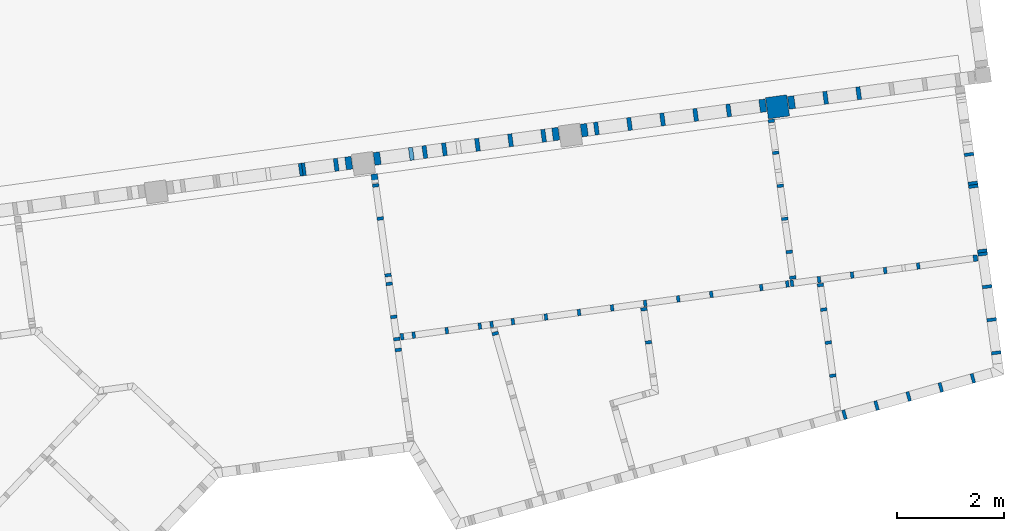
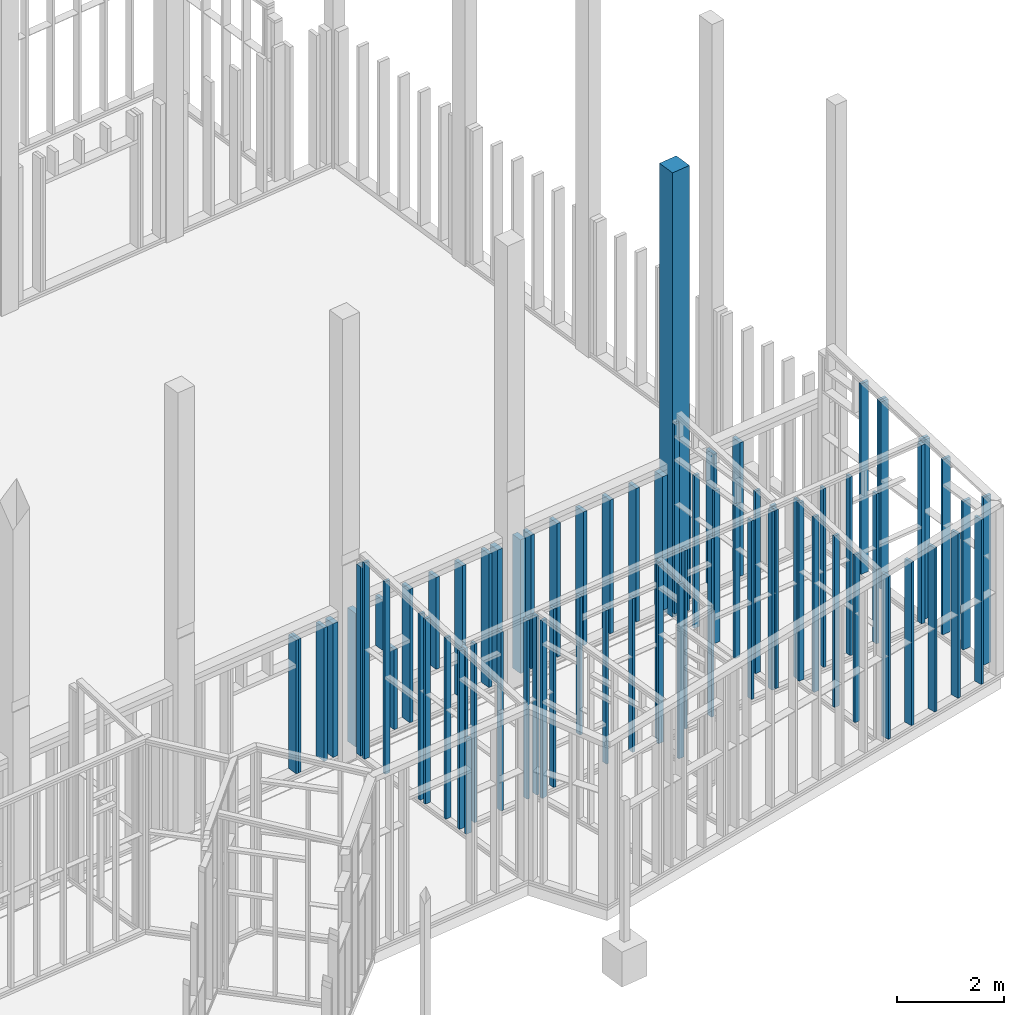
# One storey, part 4 of 24: 77 columns.
"""IFC2X3 building model written with IfcOpenShell, lengths in metres."""

import ifcopenshell
import ifcopenshell.guid

model = None  # the IFC model being written
_history = None  # IfcOwnerHistory: only IFC2X3 demands one
_inside = {}  # id of a spatial element -> (the spatial element, [elements in it])
_under = {}  # id of a project, library or spatial element -> (it, [spatial elements below it])
_declared = {}  # id of a project -> (the project, [libraries it declares])
_typed = {}  # id of a type object -> (the type object, [elements of that type])
_made_of = {}  # id of a material, layer set ... -> (it, [elements and type objects made of it])


def new_model(schema):
    """Start an empty IFC model of exactly this schema.

    Asked for "IFC4X3", IfcOpenShell would pick the latest addendum, in which some entities
    have other attributes; the version numbers below select the first issue.
    IFC2X3 requires an IfcOwnerHistory on every rooted entity: one is made here for all.
    """
    global model, _history
    if schema == "IFC4X3":
        model = ifcopenshell.file(schema_version=(4, 3, 0, 0))
    else:
        model = ifcopenshell.file(schema=schema)
    _inside.clear()
    _under.clear()
    _declared.clear()
    _typed.clear()
    _made_of.clear()
    _history = None
    if model.schema == "IFC2X3":
        org = make("IfcOrganization", Name="unknown")
        user = make(
            "IfcPersonAndOrganization",
            ThePerson=make("IfcPerson", FamilyName="unknown"),
            TheOrganization=org,
        )
        app = make(
            "IfcApplication",
            ApplicationDeveloper=org,
            Version="unknown",
            ApplicationFullName="unknown",
            ApplicationIdentifier="unknown",
        )
        _history = make(
            "IfcOwnerHistory",
            OwningUser=user,
            OwningApplication=app,
            ChangeAction="ADDED",
            CreationDate=0,
        )
    return model


def make(cls, **values):
    """One entity of the class cls with the attributes given. An attribute that is None is left unset."""
    return model.create_entity(
        cls, **{name: value for name, value in values.items() if value is not None}
    )


def entity(cls, *values):
    """Any entity or typed value of the class cls, its attributes in the order of the schema. None: left unset."""
    e = model.create_entity(cls)
    for i, value in enumerate(values):
        if value is not None:
            e[i] = value
    return e


def rooted(cls, **values):
    """An entity with a GlobalId (a new one), such as an element, a storey or a relation."""
    return make(cls, GlobalId=ifcopenshell.guid.new(), OwnerHistory=_history, **values)


def si_unit(unit_type, name, prefix=None):
    """IfcSIUnit, for example si_unit("LENGTHUNIT", "METRE", prefix="MILLI")."""
    return make("IfcSIUnit", UnitType=unit_type, Prefix=prefix, Name=name)


def converted_unit(unit_type, name, factor, base, dimensions=None, offset=None):
    """IfcConversionBasedUnit, such as the inch: factor (a typed value) times the base unit."""
    return make(
        "IfcConversionBasedUnit"
        if offset is None
        else "IfcConversionBasedUnitWithOffset",
        ConversionOffset=offset,
        Dimensions=None
        if dimensions is None
        else entity("IfcDimensionalExponents", *dimensions),
        UnitType=unit_type,
        Name=name,
        ConversionFactor=make(
            "IfcMeasureWithUnit", ValueComponent=factor, UnitComponent=base
        ),
    )


def derived_unit(unit_type, elements):
    """IfcDerivedUnit: a product of units, each with its exponent."""
    return make(
        "IfcDerivedUnit",
        Elements=[
            make("IfcDerivedUnitElement", Unit=unit, Exponent=power)
            for unit, power in elements
        ],
        UnitType=unit_type,
    )


def money_unit(currency):
    """IfcMonetaryUnit."""
    return make("IfcMonetaryUnit", Currency=currency)


def assignment(units):
    """IfcUnitAssignment: the units of a project."""
    return None if units is None else make("IfcUnitAssignment", Units=units)


def point(xyz):
    """IfcCartesianPoint."""
    return None if xyz is None else make("IfcCartesianPoint", Coordinates=xyz)


def direction(xyz):
    """IfcDirection."""
    return None if xyz is None else make("IfcDirection", DirectionRatios=xyz)


def frame(location, z_axis=None, x_axis=None):
    """IfcAxis2Placement3D, a coordinate frame: its origin and axes. An axis left out is left unset."""
    return make(
        "IfcAxis2Placement3D",
        Location=point(location),
        Axis=direction(z_axis),
        RefDirection=direction(x_axis),
    )


def frame_2d(location, x_axis=None):
    """IfcAxis2Placement2D, a coordinate frame in the plane: its origin and x axis."""
    return make(
        "IfcAxis2Placement2D", Location=point(location), RefDirection=direction(x_axis)
    )


def origin_with_axes():
    """The frame at (0, 0, 0) with the z axis (0, 0, 1) and the x axis (1, 0, 0) written out."""
    return frame((0.0, 0.0, 0.0), z_axis=(0.0, 0.0, 1.0), x_axis=(1.0, 0.0, 0.0))


def origin_2d_with_axis():
    """The frame at (0, 0) in the plane with the x axis (1, 0) written out."""
    return frame_2d((0.0, 0.0), x_axis=(1.0, 0.0))


def place(relative_to, where):
    """IfcLocalPlacement: puts the frame where relative to a parent placement (None: the world)."""
    return make(
        "IfcLocalPlacement", PlacementRelTo=relative_to, RelativePlacement=where
    )


def context(
    kind, dimensions, precision=None, world=None, true_north=None, identifier=None
):
    """IfcGeometricRepresentationContext, for example the 3D "Model" context."""
    return make(
        "IfcGeometricRepresentationContext",
        ContextIdentifier=identifier,
        ContextType=kind,
        CoordinateSpaceDimension=dimensions,
        Precision=precision,
        WorldCoordinateSystem=world,
        TrueNorth=true_north,
    )


def subcontext(parent, identifier, kind, view, scale=None):
    """IfcGeometricRepresentationSubContext, for example "Body" below "Model"."""
    return make(
        "IfcGeometricRepresentationSubContext",
        ContextIdentifier=identifier,
        ContextType=kind,
        ParentContext=parent,
        TargetScale=scale,
        TargetView=view,
    )


def project(units=None, contexts=None):
    """IfcProject with its units and contexts."""
    return rooted(
        "IfcProject",
        Name="project",
        RepresentationContexts=contexts,
        UnitsInContext=assignment(units),
    )


def spatial(cls, under=None, at=None, **own):
    """A site, building, storey or space (cls), placed at a placement, below another one or the project."""
    s = rooted(cls, ObjectPlacement=at, **own)
    if under is not None:
        _under.setdefault(under.id(), (under, []))[1].append(s)
    return s


def profile(cls, at=None, kind="AREA", **sizes):
    """A parametric profile (cls). Its sizes go by their IFC names, for example OverallWidth=200.0."""
    return make(cls, ProfileType=kind, Position=at, **sizes)


def rectangle(**sizes):
    """IfcRectangleProfileDef."""
    return profile("IfcRectangleProfileDef", **sizes)


def extrude(swept, where, along, depth):
    """IfcExtrudedAreaSolid: the profile swept, set in the frame where, extruded along a direction by depth."""
    return make(
        "IfcExtrudedAreaSolid",
        SweptArea=swept,
        Position=where,
        ExtrudedDirection=direction(along),
        Depth=depth,
    )


def shape(context_of_items, identifier, shape_type, items):
    """IfcShapeRepresentation: the items that make up one representation, for example the "Body"."""
    return make(
        "IfcShapeRepresentation",
        ContextOfItems=context_of_items,
        RepresentationIdentifier=identifier,
        RepresentationType=shape_type,
        Items=items,
    )


def material(Name=None, Category=None):
    """IfcMaterial."""
    return make("IfcMaterial", Name=Name, Category=Category)


def made_of(thing, what):
    """Note that an element or type object is made of a material, layer set ...; save() writes the relation."""
    if what is not None:
        _made_of.setdefault(what.id(), (what, []))[1].append(thing)
    return thing


def type_object(cls, material=None, **own):
    """A type object (cls), such as IfcWallType, which elements share."""
    return made_of(rooted(cls, **own), material)


def element(
    cls,
    number,
    at=None,
    inside=None,
    cuts=None,
    type_object=None,
    material=None,
    context=None,
    identifier="Body",
    shape_type=None,
    held_by="IfcProductDefinitionShape",
    body=None,
    shapes=None,
    **own,
):
    """One element of the class cls, such as IfcWall. Its Tag is "e" and its number.

    at: its placement. inside: the storey or other place that contains it. cuts: it is an
    opening in that element (IfcRelVoidsElement). A single representation is given by context,
    identifier, shape_type and body (its items); several are given by shapes. held_by: the class
    of the entity that holds the representations. save() writes the other relations.
    """
    e = rooted(cls, Tag="e%d" % number, ObjectPlacement=at, **own)
    if body is not None:
        shapes = [shape(context, identifier, shape_type, body)]
    if shapes is not None:
        e.Representation = make(held_by, Representations=shapes)
    if inside is not None:
        _inside.setdefault(inside.id(), (inside, []))[1].append(e)
    if cuts is not None:
        rooted(
            "IfcRelVoidsElement", RelatingBuildingElement=cuts, RelatedOpeningElement=e
        )
    if type_object is not None:
        _typed.setdefault(type_object.id(), (type_object, []))[1].append(e)
    return made_of(e, material)


def aggregate(whole, parts):
    """IfcRelAggregates: a whole, such as a stair, and the parts it consists of."""
    return rooted("IfcRelAggregates", RelatingObject=whole, RelatedObjects=parts)


def save(model, path):
    """Write the relations noted so far, then the file.

    IfcRelAggregates (storeys below a building ...), IfcRelContainedInSpatialStructure (elements
    in a storey), IfcRelDefinesByType, IfcRelAssociatesMaterial and IfcRelDeclares: one each for
    every whole, place, type object, material and project.
    """
    for whole, parts in _under.values():
        aggregate(whole, parts)
    for where, things in _inside.values():
        rooted(
            "IfcRelContainedInSpatialStructure",
            RelatedElements=things,
            RelatingStructure=where,
        )
    for kind, things in _typed.values():
        rooted("IfcRelDefinesByType", RelatedObjects=things, RelatingType=kind)
    for what, things in _made_of.values():
        rooted("IfcRelAssociatesMaterial", RelatedObjects=things, RelatingMaterial=what)
    for by, libraries in _declared.values():
        rooted("IfcRelDeclares", RelatingContext=by, RelatedDefinitions=libraries)
    model.write(path)


model = new_model("IFC2X3")

# Units and contexts
model_context = context("Model", 3, precision=1e-05, world=origin_with_axes(), true_north=direction((0.0, 1.0)))
body_context = subcontext(model_context, "Body", "Model", "MODEL_VIEW")
ifc_project = project(units=[si_unit("LENGTHUNIT", "METRE"), si_unit("AREAUNIT", "SQUARE_METRE"), si_unit("VOLUMEUNIT", "CUBIC_METRE"), converted_unit("PLANEANGLEUNIT", "DEGREE", entity("IfcPlaneAngleMeasure", 0.0174532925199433), si_unit("PLANEANGLEUNIT", "RADIAN"), dimensions=[0, 0, 0, 0, 0, 0, 0]), money_unit("EUR"), converted_unit("TIMEUNIT", "Year", entity("IfcTimeMeasure", 31557600.0), si_unit("TIMEUNIT", "SECOND"), dimensions=[0, 0, 1, 0, 0, 0, 0]), si_unit("MASSUNIT", "GRAM", prefix="KILO"), si_unit("THERMODYNAMICTEMPERATUREUNIT", "DEGREE_CELSIUS"), si_unit("LUMINOUSINTENSITYUNIT", "LUMEN"), si_unit("ENERGYUNIT", "JOULE", prefix="MEGA"), derived_unit("THERMALCONDUCTANCEUNIT", [(si_unit("POWERUNIT", "WATT"), 1), (si_unit("LENGTHUNIT", "METRE"), -1), (si_unit("THERMODYNAMICTEMPERATUREUNIT", "KELVIN"), -1)]), derived_unit("SPECIFICHEATCAPACITYUNIT", [(si_unit("ENERGYUNIT", "JOULE"), 1), (si_unit("MASSUNIT", "GRAM", prefix="KILO"), -1), (si_unit("THERMODYNAMICTEMPERATUREUNIT", "KELVIN"), -1)]), derived_unit("MASSDENSITYUNIT", [(si_unit("MASSUNIT", "GRAM", prefix="KILO"), 1), (si_unit("VOLUMEUNIT", "CUBIC_METRE"), -1)])], contexts=[model_context])

# Site, building, storey
site_placement = place(None, origin_with_axes())
site = spatial("IfcSite", under=ifc_project, at=site_placement, Name="Gelände", CompositionType="ELEMENT")
building_placement = place(site_placement, origin_with_axes())
building = spatial("IfcBuilding", under=site, at=building_placement, Name="Gebäude", CompositionType="ELEMENT")
storey_placement = place(building_placement, origin_with_axes())
storey = spatial("IfcBuildingStorey", under=building, at=storey_placement, Name="EG", CompositionType="ELEMENT", Elevation=0.0)

# Columns
ifc_material_1 = material(Name="Holz, Brettschichtholz")
column_type_1 = type_object("IfcColumnType", Name="Holz, Brettschichtholz 400 x 400", PredefinedType="NOTDEFINED")
column_1_placement = place(storey_placement, frame((109.8498937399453, -147.8897991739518, -0.1680000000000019), z_axis=(0.0, 0.0, 1.0), x_axis=(0.990748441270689, 0.1357111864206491, 0.0)))
element("IfcColumn", 1, at=column_1_placement, inside=storey, type_object=column_type_1, material=ifc_material_1, Name="Stütze-011", context=body_context, shape_type="SweptSolid", body=[
    extrude(rectangle(XDim=0.4, YDim=0.4, at=origin_2d_with_axis()), origin_with_axes(), (0.0, 0.0, 1.0), 10.17693352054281),
])
ifc_material_2 = material(Name="Bauholz")
column_type_2 = type_object("IfcColumnType", Name="Bauholz 80 x 240", PredefinedType="NOTDEFINED")
for number, where, z_axis, x_axis in (
    (2, (101.5851229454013, -148.9759697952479, -0.02800000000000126), (0.0, 0.0, 1.0), (0.9907484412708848, 0.1357111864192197, 0.0)),
    (3, (103.6116308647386, -148.6857651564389, -0.02800000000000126), (0.0, 0.0, 1.0), (0.9907484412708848, 0.1357111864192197, 0.0)),
):
    element("IfcColumn", number, at=place(storey_placement, frame(where, z_axis=z_axis, x_axis=x_axis)), inside=storey, type_object=column_type_2, material=ifc_material_2, Name="Stütze-018", context=body_context, shape_type="SweptSolid", body=[
        extrude(rectangle(XDim=0.08, YDim=0.24, at=origin_2d_with_axis()), origin_with_axes(), (0.0, 0.0, 1.0), 3.059999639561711),
    ])
column_2_placement = place(storey_placement, frame((104.2308486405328, -148.600945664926, 0.9270000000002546), z_axis=(0.0, 0.0, 1.0), x_axis=(0.9907484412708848, 0.1357111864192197, 0.0)))
element("IfcColumn", 4, at=column_2_placement, inside=storey, type_object=column_type_2, material=ifc_material_2, Name="Stütze-018", context=body_context, shape_type="SweptSolid", body=[
    extrude(rectangle(XDim=0.08, YDim=0.24, at=origin_2d_with_axis()), origin_with_axes(), (0.0, 0.0, 1.0), 2.104999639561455),
])
for number, where, z_axis, x_axis in (
    (5, (104.8500664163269, -148.5161261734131, -0.02800000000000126), (0.0, 0.0, 1.0), (0.9907484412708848, 0.1357111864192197, 0.0)),
    (6, (105.4692841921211, -148.4313066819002, -0.02800000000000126), (0.0, 0.0, 1.0), (0.9907484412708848, 0.1357111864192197, 0.0)),
    (7, (107.0776077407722, -148.2110010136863, -0.02800000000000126), (0.0, 0.0, 1.0), (0.9907484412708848, 0.1357111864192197, 0.0)),
    (8, (106.458389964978, -148.2958205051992, -0.02800000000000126), (0.0, 0.0, 1.0), (0.9907484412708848, 0.1357111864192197, 0.0)),
    (9, (108.3160432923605, -148.0413620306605, -0.02800000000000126), (0.0, 0.0, 1.0), (0.9907484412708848, 0.1357111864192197, 0.0)),
    (10, (107.6968255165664, -148.1261815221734, -0.02800000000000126), (0.0, 0.0, 1.0), (0.9907484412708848, 0.1357111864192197, 0.0)),
    (11, (108.9352610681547, -147.9565425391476, -0.02800000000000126), (0.0, 0.0, 1.0), (0.9907484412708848, 0.1357111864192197, 0.0)),
    (12, (110.7502544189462, -147.7205442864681, -0.0280000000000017), (0.0, 0.0, 1.0), (0.9907484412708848, 0.1357111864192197, 0.0)),
    (13, (111.3694721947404, -147.6357247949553, -0.0280000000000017), (0.0, 0.0, 1.0), (0.9907484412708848, 0.1357111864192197, 0.0)),
):
    element("IfcColumn", number, at=place(storey_placement, frame(where, z_axis=z_axis, x_axis=x_axis)), inside=storey, type_object=column_type_2, material=ifc_material_2, Name="Stütze-018", context=body_context, shape_type="SweptSolid", body=[
        extrude(rectangle(XDim=0.08, YDim=0.24, at=origin_2d_with_axis()), origin_with_axes(), (0.0, 0.0, 1.0), 3.059999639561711),
    ])
column_3_placement = place(storey_placement, frame((102.9924130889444, -148.7705846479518, 1.88349013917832), z_axis=(0.0, 0.0, 1.0), x_axis=(0.9907484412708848, 0.1357111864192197, 0.0)))
element("IfcColumn", 14, at=column_3_placement, inside=storey, type_object=column_type_2, material=ifc_material_2, Name="Stütze-018", context=body_context, shape_type="SweptSolid", body=[
    extrude(rectangle(XDim=0.08, YDim=0.24, at=origin_2d_with_axis()), origin_with_axes(), (0.0, 0.0, 1.0), 1.148509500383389),
])
column_4_placement = place(storey_placement, frame((103.2450539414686, -148.7359782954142, -0.02800000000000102), z_axis=(0.0, 0.0, 1.0), x_axis=(0.9907484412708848, 0.1357111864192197, 0.0)))
element("IfcColumn", 15, at=column_4_placement, inside=storey, type_object=column_type_2, material=ifc_material_2, Name="Stütze-018", context=body_context, shape_type="SweptSolid", body=[
    extrude(rectangle(XDim=0.08, YDim=0.24, at=origin_2d_with_axis()), origin_with_axes(), (0.0, 0.0, 1.0), 1.831490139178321),
])
column_type_3 = type_object("IfcColumnType", Name="Bauholz 60 x 120", PredefinedType="NOTDEFINED")
for number, where, z_axis, x_axis in (
    (16, (110.6279857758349, -151.1254029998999, -0.04299999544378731), (0.0, 0.0, 1.0), (0.9907484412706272, 0.1357111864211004, 0.0)),
    (17, (111.247203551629, -151.040583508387, -0.04299999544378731), (0.0, 0.0, 1.0), (0.9907484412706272, 0.1357111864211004, 0.0)),
    (18, (111.8664213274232, -150.9557640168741, -0.04299999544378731), (0.0, 0.0, 1.0), (0.9907484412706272, 0.1357111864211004, 0.0)),
    (19, (110.0340134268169, -151.2067644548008, -0.04299999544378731), (0.0, 0.0, 1.0), (0.9907484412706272, 0.1357111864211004, 0.0)),
):
    element("IfcColumn", number, at=place(storey_placement, frame(where, z_axis=z_axis, x_axis=x_axis)), inside=storey, type_object=column_type_3, material=ifc_material_2, Name="Stütze-018", context=body_context, shape_type="SweptSolid", body=[
        extrude(rectangle(XDim=0.06, YDim=0.12, at=origin_2d_with_axis()), frame((0.0, 0.0, 0.0), z_axis=(0.0, 0.0, -1.0), x_axis=(-1.0, 0.0, 0.0)), (0.0, 0.0, -1.0), 4.089578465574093),
    ])
column_5_placement = place(storey_placement, frame((102.7474962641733, -152.442483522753, -0.04299999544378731), z_axis=(0.0, 0.0, 1.0), x_axis=(-0.1357096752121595, 0.9907486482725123, 0.0)))
element("IfcColumn", 20, at=column_5_placement, inside=storey, type_object=column_type_3, material=ifc_material_2, Name="Stütze-018", context=body_context, shape_type="SweptSolid", body=[
    extrude(rectangle(XDim=0.06, YDim=0.12, at=origin_2d_with_axis()), frame((0.0, 0.0, 0.0), z_axis=(0.0, 0.0, -1.0), x_axis=(-1.0, 0.0, 0.0)), (0.0, 0.0, -1.0), 2.177999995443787),
])
column_6_placement = place(storey_placement, frame((112.4856391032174, -150.8709445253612, -0.04299999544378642), z_axis=(0.0, 0.0, 1.0), x_axis=(0.9907484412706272, 0.1357111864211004, 0.0)))
element("IfcColumn", 21, at=column_6_placement, inside=storey, type_object=column_type_3, material=ifc_material_2, Name="Stütze-018", context=body_context, shape_type="SweptSolid", body=[
    extrude(rectangle(XDim=0.06, YDim=0.12, at=origin_2d_with_axis()), frame((0.0, 0.0, 0.0), z_axis=(0.0, 0.0, -1.0), x_axis=(-1.0, 0.0, 0.0)), (0.0, 0.0, -1.0), 3.433580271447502),
])
for number, where, z_axis, x_axis in (
    (22, (110.1207039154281, -151.194889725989, -0.04299999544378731), (0.0, 0.0, 1.0), (0.9907484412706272, 0.1357111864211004, 0.0)),
    (23, (108.6099065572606, -151.4018363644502, -0.04299999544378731), (0.0, 0.0, 1.0), (0.9907484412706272, 0.1357111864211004, 0.0)),
    (24, (107.3714710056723, -151.5714753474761, -0.04299999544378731), (0.0, 0.0, 1.0), (0.9907484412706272, 0.1357111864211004, 0.0)),
):
    element("IfcColumn", number, at=place(storey_placement, frame(where, z_axis=z_axis, x_axis=x_axis)), inside=storey, type_object=column_type_3, material=ifc_material_2, Name="Stütze-018", context=body_context, shape_type="SweptSolid", body=[
        extrude(rectangle(XDim=0.06, YDim=0.12, at=origin_2d_with_axis()), frame((0.0, 0.0, 0.0), z_axis=(0.0, 0.0, -1.0), x_axis=(-1.0, 0.0, 0.0)), (0.0, 0.0, -1.0), 4.089578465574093),
    ])
for number, where, z_axis, x_axis in (
    (25, (106.7522532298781, -151.656294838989, -0.04299999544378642), (0.0, 0.0, 1.0), (0.9907484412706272, 0.1357111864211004, 0.0)),
    (26, (106.1330354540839, -151.7411143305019, -0.04299999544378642), (0.0, 0.0, 1.0), (0.9907484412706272, 0.1357111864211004, 0.0)),
):
    element("IfcColumn", number, at=place(storey_placement, frame(where, z_axis=z_axis, x_axis=x_axis)), inside=storey, type_object=column_type_3, material=ifc_material_2, Name="Stütze-018", context=body_context, shape_type="SweptSolid", body=[
        extrude(rectangle(XDim=0.06, YDim=0.12, at=origin_2d_with_axis()), frame((0.0, 0.0, 0.0), z_axis=(0.0, 0.0, -1.0), x_axis=(-1.0, 0.0, 0.0)), (0.0, 0.0, -1.0), 3.520563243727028),
    ])
for number, where, z_axis, x_axis in (
    (27, (107.9906887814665, -151.4866558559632, -0.04299999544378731), (0.0, 0.0, 1.0), (0.9907484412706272, 0.1357111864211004, 0.0)),
    (28, (104.8945999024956, -151.9107533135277, -0.04299999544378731), (0.0, 0.0, 1.0), (0.9907484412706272, 0.1357111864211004, 0.0)),
):
    element("IfcColumn", number, at=place(storey_placement, frame(where, z_axis=z_axis, x_axis=x_axis)), inside=storey, type_object=column_type_3, material=ifc_material_2, Name="Stütze-018", context=body_context, shape_type="SweptSolid", body=[
        extrude(rectangle(XDim=0.06, YDim=0.12, at=origin_2d_with_axis()), frame((0.0, 0.0, 0.0), z_axis=(0.0, 0.0, -1.0), x_axis=(-1.0, 0.0, 0.0)), (0.0, 0.0, -1.0), 4.089578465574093),
    ])
column_7_placement = place(storey_placement, frame((105.5138176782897, -151.8259338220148, 0.8920000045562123), z_axis=(0.0, 0.0, 1.0), x_axis=(0.9907484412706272, 0.1357111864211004, 0.0)))
element("IfcColumn", 29, at=column_7_placement, inside=storey, type_object=column_type_3, material=ifc_material_2, Name="Stütze-018", context=body_context, shape_type="SweptSolid", body=[
    extrude(rectangle(XDim=0.06, YDim=0.12, at=origin_2d_with_axis()), frame((0.0, 0.0, 0.0), z_axis=(0.0, 0.0, -1.0), x_axis=(-1.0, 0.0, 0.0)), (0.0, 0.0, -1.0), 3.154578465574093),
])
for number, where, z_axis, x_axis in (
    (30, (104.4960657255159, -151.9653439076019, -0.04299999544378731), (0.0, 0.0, 1.0), (0.9907484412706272, 0.1357111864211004, 0.0)),
    (31, (103.6561643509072, -152.0803922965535, -0.04299999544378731), (0.0, 0.0, 1.0), (0.9907484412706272, 0.1357111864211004, 0.0)),
    (32, (109.5461638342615, -151.2735892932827, -0.04299999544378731), (0.0, 0.0, 1.0), (0.9907484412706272, 0.1357111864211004, 0.0)),
    (33, (104.2753821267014, -151.9955728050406, -0.04299999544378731), (0.0, 0.0, 1.0), (0.9907484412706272, 0.1357111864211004, 0.0)),
    (34, (102.8195750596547, -152.1949870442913, -0.04299999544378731), (0.0, 0.0, 1.0), (0.9907484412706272, 0.1357111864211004, 0.0)),
    (35, (103.036946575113, -152.1652117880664, -0.04299999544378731), (0.0, 0.0, 1.0), (0.9907484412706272, 0.1357111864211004, 0.0)),
):
    element("IfcColumn", number, at=place(storey_placement, frame(where, z_axis=z_axis, x_axis=x_axis)), inside=storey, type_object=column_type_3, material=ifc_material_2, Name="Stütze-018", context=body_context, shape_type="SweptSolid", body=[
        extrude(rectangle(XDim=0.06, YDim=0.12, at=origin_2d_with_axis()), frame((0.0, 0.0, 0.0), z_axis=(0.0, 0.0, -1.0), x_axis=(-1.0, 0.0, 0.0)), (0.0, 0.0, -1.0), 4.089578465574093),
    ])
column_8_placement = place(storey_placement, frame((110.1361767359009, -151.0867899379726, -0.04300000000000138), z_axis=(0.0, 0.0, 1.0), x_axis=(-0.1357096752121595, 0.9907486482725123, 0.0)))
element("IfcColumn", 36, at=column_8_placement, inside=storey, type_object=column_type_3, material=ifc_material_2, Name="Stütze-018", context=body_context, shape_type="SweptSolid", body=[
    extrude(rectangle(XDim=0.06, YDim=0.12, at=origin_2d_with_axis()), frame((0.0, 0.0, 0.0), z_axis=(0.0, 0.0, -1.0), x_axis=(-1.0, 0.0, 0.0)), (0.0, 0.0, -1.0), 4.107372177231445),
])
column_9_placement = place(storey_placement, frame((110.0704565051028, -150.6070047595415, -0.04300000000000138), z_axis=(0.0, 0.0, 1.0), x_axis=(-0.1357096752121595, 0.9907486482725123, 0.0)))
element("IfcColumn", 37, at=column_9_placement, inside=storey, type_object=column_type_3, material=ifc_material_2, Name="Stütze-018", context=body_context, shape_type="SweptSolid", body=[
    extrude(rectangle(XDim=0.06, YDim=0.12, at=origin_2d_with_axis()), frame((0.0, 0.0, 0.0), z_axis=(0.0, 0.0, -1.0), x_axis=(-1.0, 0.0, 0.0)), (0.0, 0.0, -1.0), 4.17543123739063),
])
column_10_placement = place(storey_placement, frame((109.9008175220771, -149.3685692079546, -0.04300000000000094), z_axis=(0.0, 0.0, 1.0), x_axis=(-0.1357096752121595, 0.9907486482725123, 0.0)))
element("IfcColumn", 38, at=column_10_placement, inside=storey, type_object=column_type_3, material=ifc_material_2, Name="Stütze-018", context=body_context, shape_type="SweptSolid", body=[
    extrude(rectangle(XDim=0.06, YDim=0.12, at=origin_2d_with_axis()), frame((0.0, 0.0, 0.0), z_axis=(0.0, 0.0, -1.0), x_axis=(-1.0, 0.0, 0.0)), (0.0, 0.0, -1.0), 3.495563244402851),
])
column_11_placement = place(storey_placement, frame((109.7345712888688, -148.154902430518, -0.04300000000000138), z_axis=(0.0, 0.0, 1.0), x_axis=(-0.1357096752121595, 0.9907486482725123, 0.0)))
element("IfcColumn", 39, at=column_11_placement, inside=storey, type_object=column_type_3, material=ifc_material_2, Name="Stütze-018", context=body_context, shape_type="SweptSolid", body=[
    extrude(rectangle(XDim=0.06, YDim=0.12, at=origin_2d_with_axis()), frame((0.0, 0.0, 0.0), z_axis=(0.0, 0.0, -1.0), x_axis=(-1.0, 0.0, 0.0)), (0.0, 0.0, -1.0), 4.33964893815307),
])
column_12_placement = place(storey_placement, frame((109.8159980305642, -148.7493514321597, -0.04300000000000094), z_axis=(0.0, 0.0, 1.0), x_axis=(-0.1357096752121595, 0.9907486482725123, 0.0)))
element("IfcColumn", 40, at=column_12_placement, inside=storey, type_object=column_type_3, material=ifc_material_2, Name="Stütze-018", context=body_context, shape_type="SweptSolid", body=[
    extrude(rectangle(XDim=0.06, YDim=0.12, at=origin_2d_with_axis()), frame((0.0, 0.0, 0.0), z_axis=(0.0, 0.0, -1.0), x_axis=(-1.0, 0.0, 0.0)), (0.0, 0.0, -1.0), 3.495563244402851),
])
column_13_placement = place(storey_placement, frame((110.6528082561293, -151.2279834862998, -0.04300000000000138), z_axis=(0.0, 0.0, 1.0), x_axis=(0.1357111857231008, -0.9907484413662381, 0.0)))
element("IfcColumn", 41, at=column_13_placement, inside=storey, type_object=column_type_3, material=ifc_material_2, Name="Stütze-018", context=body_context, shape_type="SweptSolid", body=[
    extrude(rectangle(XDim=0.06, YDim=0.12, at=origin_2d_with_axis()), frame((0.0, 0.0, 0.0), z_axis=(0.0, 0.0, -1.0), x_axis=(-1.0, 0.0, 0.0)), (0.0, 0.0, -1.0), 4.077858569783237),
])
column_14_placement = place(storey_placement, frame((110.7155510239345, -151.6860319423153, -0.04300000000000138), z_axis=(0.0, 0.0, 1.0), x_axis=(0.1357111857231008, -0.9907484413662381, 0.0)))
element("IfcColumn", 42, at=column_14_placement, inside=storey, type_object=column_type_3, material=ifc_material_2, Name="Stütze-018", context=body_context, shape_type="SweptSolid", body=[
    extrude(rectangle(XDim=0.06, YDim=0.12, at=origin_2d_with_axis()), frame((0.0, 0.0, 0.0), z_axis=(0.0, 0.0, -1.0), x_axis=(-1.0, 0.0, 0.0)), (0.0, 0.0, -1.0), 4.012882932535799),
])
column_15_placement = place(storey_placement, frame((109.9856370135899, -149.9877869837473, -0.04300000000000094), z_axis=(0.0, 0.0, 1.0), x_axis=(-0.1357096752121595, 0.9907486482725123, 0.0)))
element("IfcColumn", 43, at=column_15_placement, inside=storey, type_object=column_type_3, material=ifc_material_2, Name="Stütze-018", context=body_context, shape_type="SweptSolid", body=[
    extrude(rectangle(XDim=0.06, YDim=0.12, at=origin_2d_with_axis()), frame((0.0, 0.0, 0.0), z_axis=(0.0, 0.0, -1.0), x_axis=(-1.0, 0.0, 0.0)), (0.0, 0.0, -1.0), 3.495563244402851),
])
column_16_placement = place(storey_placement, frame((110.8851900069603, -152.9244674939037, -0.04300000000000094), z_axis=(0.0, 0.0, 1.0), x_axis=(0.1357111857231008, -0.9907484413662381, 0.0)))
element("IfcColumn", 44, at=column_16_placement, inside=storey, type_object=column_type_3, material=ifc_material_2, Name="Stütze-018", context=body_context, shape_type="SweptSolid", body=[
    extrude(rectangle(XDim=0.06, YDim=0.12, at=origin_2d_with_axis()), frame((0.0, 0.0, 0.0), z_axis=(0.0, 0.0, -1.0), x_axis=(-1.0, 0.0, 0.0)), (0.0, 0.0, -1.0), 3.837206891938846),
])
column_17_placement = place(storey_placement, frame((110.8003705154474, -152.3052497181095, -0.04300000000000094), z_axis=(0.0, 0.0, 1.0), x_axis=(0.1357111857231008, -0.9907484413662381, 0.0)))
element("IfcColumn", 45, at=column_17_placement, inside=storey, type_object=column_type_3, material=ifc_material_2, Name="Stütze-018", context=body_context, shape_type="SweptSolid", body=[
    extrude(rectangle(XDim=0.06, YDim=0.12, at=origin_2d_with_axis()), frame((0.0, 0.0, 0.0), z_axis=(0.0, 0.0, -1.0), x_axis=(-1.0, 0.0, 0.0)), (0.0, 0.0, -1.0), 3.92504491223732),
])
column_18_placement = place(storey_placement, frame((107.3489541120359, -151.6805402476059, -0.04299999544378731), z_axis=(0.0, 0.0, 1.0), x_axis=(0.1357111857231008, -0.9907484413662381, 0.0)))
element("IfcColumn", 46, at=column_18_placement, inside=storey, type_object=column_type_3, material=ifc_material_2, Name="Stütze-018", context=body_context, shape_type="SweptSolid", body=[
    extrude(rectangle(XDim=0.06, YDim=0.12, at=origin_2d_with_axis()), frame((0.0, 0.0, 0.0), z_axis=(0.0, 0.0, -1.0), x_axis=(-1.0, 0.0, 0.0)), (0.0, 0.0, -1.0), 4.081652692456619),
])
column_19_placement = place(storey_placement, frame((107.4337736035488, -152.2997580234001, -0.04299999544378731), z_axis=(0.0, 0.0, 1.0), x_axis=(0.1357111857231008, -0.9907484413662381, 0.0)))
element("IfcColumn", 47, at=column_19_placement, inside=storey, type_object=column_type_3, material=ifc_material_2, Name="Stütze-018", context=body_context, shape_type="SweptSolid", body=[
    extrude(rectangle(XDim=0.06, YDim=0.12, at=origin_2d_with_axis()), frame((0.0, 0.0, 0.0), z_axis=(0.0, 0.0, -1.0), x_axis=(-1.0, 0.0, 0.0)), (0.0, 0.0, -1.0), 3.993814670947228),
])
column_20_placement = place(storey_placement, frame((104.5648549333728, -152.135493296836, -0.04299999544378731), z_axis=(0.0, 0.0, 1.0), x_axis=(0.2723507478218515, -0.962198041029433, 0.0)))
element("IfcColumn", 48, at=column_20_placement, inside=storey, type_object=column_type_3, material=ifc_material_2, Name="Stütze-018", context=body_context, shape_type="SweptSolid", body=[
    extrude(rectangle(XDim=0.06, YDim=0.12, at=origin_2d_with_axis()), frame((0.0, 0.0, 0.0), z_axis=(0.0, 0.0, -1.0), x_axis=(-1.0, 0.0, 0.0)), (0.0, 0.0, -1.0), 4.066442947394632),
])
column_21_placement = place(storey_placement, frame((102.4103942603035, -149.9814983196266, -0.04299999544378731), z_axis=(0.0, 0.0, 1.0), x_axis=(-0.1357096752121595, 0.9907486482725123, 0.0)))
element("IfcColumn", 49, at=column_21_placement, inside=storey, type_object=column_type_3, material=ifc_material_2, Name="Stütze-018", context=body_context, shape_type="SweptSolid", body=[
    extrude(rectangle(XDim=0.06, YDim=0.12, at=origin_2d_with_axis()), frame((0.0, 0.0, 0.0), z_axis=(0.0, 0.0, -1.0), x_axis=(-1.0, 0.0, 0.0)), (0.0, 0.0, -1.0), 4.408627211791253),
])
column_22_placement = place(storey_placement, frame((102.325574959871, -149.3622805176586, -0.04299999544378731), z_axis=(0.0, 0.0, 1.0), x_axis=(-0.1357096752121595, 0.9907486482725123, 0.0)))
element("IfcColumn", 50, at=column_22_placement, inside=storey, type_object=column_type_3, material=ifc_material_2, Name="Stütze-018", context=body_context, shape_type="SweptSolid", body=[
    extrude(rectangle(XDim=0.06, YDim=0.12, at=origin_2d_with_axis()), frame((0.0, 0.0, 0.0), z_axis=(0.0, 0.0, -1.0), x_axis=(-1.0, 0.0, 0.0)), (0.0, 0.0, -1.0), 4.496465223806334),
])
column_23_placement = place(storey_placement, frame((102.5556052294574, -151.0415991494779, -0.04299999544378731), z_axis=(0.0, 0.0, 1.0), x_axis=(-0.1357096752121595, 0.9907486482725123, 0.0)))
element("IfcColumn", 51, at=column_23_placement, inside=storey, type_object=column_type_3, material=ifc_material_2, Name="Stütze-018", context=body_context, shape_type="SweptSolid", body=[
    extrude(rectangle(XDim=0.06, YDim=0.12, at=origin_2d_with_axis()), frame((0.0, 0.0, 0.0), z_axis=(0.0, 0.0, -1.0), x_axis=(-1.0, 0.0, 0.0)), (0.0, 0.0, -1.0), 4.258248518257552),
])
column_24_placement = place(storey_placement, frame((102.5778573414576, -151.2040479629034, -0.04299999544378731), z_axis=(0.0, 0.0, 1.0), x_axis=(-0.1357096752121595, 0.9907486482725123, 0.0)))
element("IfcColumn", 52, at=column_24_placement, inside=storey, type_object=column_type_3, material=ifc_material_2, Name="Stütze-018", context=body_context, shape_type="SweptSolid", body=[
    extrude(rectangle(XDim=0.06, YDim=0.12, at=origin_2d_with_axis()), frame((0.0, 0.0, 0.0), z_axis=(0.0, 0.0, -1.0), x_axis=(-1.0, 0.0, 0.0)), (0.0, 0.0, -1.0), 4.235204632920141),
])
column_25_placement = place(storey_placement, frame((102.7196178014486, -152.2389590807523, -0.04299999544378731), z_axis=(0.0, 0.0, 1.0), x_axis=(-0.1357096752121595, 0.9907486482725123, 0.0)))
element("IfcColumn", 53, at=column_25_placement, inside=storey, type_object=column_type_3, material=ifc_material_2, Name="Stütze-018", context=body_context, shape_type="SweptSolid", body=[
    extrude(rectangle(XDim=0.06, YDim=0.12, at=origin_2d_with_axis()), frame((0.0, 0.0, 0.0), z_axis=(0.0, 0.0, -1.0), x_axis=(-1.0, 0.0, 0.0)), (0.0, 0.0, -1.0), 4.088399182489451),
])
column_26_placement = place(storey_placement, frame((102.6626767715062, -151.8232657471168, -0.04299999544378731), z_axis=(0.0, 0.0, 1.0), x_axis=(-0.1357096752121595, 0.9907486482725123, 0.0)))
element("IfcColumn", 54, at=column_26_placement, inside=storey, type_object=column_type_3, material=ifc_material_2, Name="Stütze-018", context=body_context, shape_type="SweptSolid", body=[
    extrude(rectangle(XDim=0.06, YDim=0.12, at=origin_2d_with_axis()), frame((0.0, 0.0, 0.0), z_axis=(0.0, 0.0, -1.0), x_axis=(-1.0, 0.0, 0.0)), (0.0, 0.0, -1.0), 4.147366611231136),
])
column_type_4 = type_object("IfcColumnType", Name="Bauholz 60 x 180", PredefinedType="NOTDEFINED")
column_27_placement = place(storey_placement, frame((113.6915025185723, -150.6477303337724, -0.04299999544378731), z_axis=(0.0, 0.0, 1.0), x_axis=(-0.1357111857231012, 0.9907484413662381, 0.0)))
element("IfcColumn", 55, at=column_27_placement, inside=storey, type_object=column_type_4, material=ifc_material_2, Name="Stütze-018", context=body_context, shape_type="SweptSolid", body=[
    extrude(rectangle(XDim=0.06, YDim=0.18, at=origin_2d_with_axis()), frame((0.0, 0.0, 0.0), z_axis=(0.0, 0.0, -1.0), x_axis=(-1.0, 0.0, 0.0)), (0.0, 0.0, -1.0), 4.100696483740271),
])
column_28_placement = place(storey_placement, frame((113.9447036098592, -152.4962040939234, -0.04299999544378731), z_axis=(0.0, 0.0, 1.0), x_axis=(-0.1357111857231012, 0.9907484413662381, 0.0)))
element("IfcColumn", 56, at=column_28_placement, inside=storey, type_object=column_type_4, material=ifc_material_2, Name="Stütze-018", context=body_context, shape_type="SweptSolid", body=[
    extrude(rectangle(XDim=0.06, YDim=0.18, at=origin_2d_with_axis()), frame((0.0, 0.0, 0.0), z_axis=(0.0, 0.0, -1.0), x_axis=(-1.0, 0.0, 0.0)), (0.0, 0.0, -1.0), 3.838484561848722),
])
column_29_placement = place(storey_placement, frame((113.6833598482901, -150.5882854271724, -0.04299999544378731), z_axis=(0.0, 0.0, 1.0), x_axis=(-0.1357111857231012, 0.9907484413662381, 0.0)))
element("IfcColumn", 57, at=column_29_placement, inside=storey, type_object=column_type_4, material=ifc_material_2, Name="Stütze-018", context=body_context, shape_type="SweptSolid", body=[
    extrude(rectangle(XDim=0.06, YDim=0.18, at=origin_2d_with_axis()), frame((0.0, 0.0, 0.0), z_axis=(0.0, 0.0, -1.0), x_axis=(-1.0, 0.0, 0.0)), (0.0, 0.0, -1.0), 4.109128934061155),
])
column_30_placement = place(storey_placement, frame((113.5096495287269, -149.3201274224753, -0.04299999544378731), z_axis=(0.0, 0.0, 1.0), x_axis=(-0.1357111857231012, 0.9907484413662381, 0.0)))
element("IfcColumn", 58, at=column_30_placement, inside=storey, type_object=column_type_4, material=ifc_material_2, Name="Stütze-018", context=body_context, shape_type="SweptSolid", body=[
    extrude(rectangle(XDim=0.06, YDim=0.18, at=origin_2d_with_axis()), frame((0.0, 0.0, 0.0), z_axis=(0.0, 0.0, -1.0), x_axis=(-1.0, 0.0, 0.0)), (0.0, 0.0, -1.0), 4.289021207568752),
])
column_31_placement = place(storey_placement, frame((113.4357866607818, -148.7808974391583, -0.04299999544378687), z_axis=(0.0, 0.0, 1.0), x_axis=(-0.1357111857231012, 0.9907484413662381, 0.0)))
element("IfcColumn", 59, at=column_31_placement, inside=storey, type_object=column_type_4, material=ifc_material_2, Name="Stütze-018", context=body_context, shape_type="SweptSolid", body=[
    extrude(rectangle(XDim=0.06, YDim=0.18, at=origin_2d_with_axis()), frame((0.0, 0.0, 0.0), z_axis=(0.0, 0.0, -1.0), x_axis=(-1.0, 0.0, 0.0)), (0.0, 0.0, -1.0), 4.365512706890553),
])
column_32_placement = place(storey_placement, frame((113.8598841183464, -151.8769863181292, -0.04299999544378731), z_axis=(0.0, 0.0, 1.0), x_axis=(-0.1357111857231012, 0.9907484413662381, 0.0)))
element("IfcColumn", 60, at=column_32_placement, inside=storey, type_object=column_type_4, material=ifc_material_2, Name="Stütze-018", context=body_context, shape_type="SweptSolid", body=[
    extrude(rectangle(XDim=0.06, YDim=0.18, at=origin_2d_with_axis()), frame((0.0, 0.0, 0.0), z_axis=(0.0, 0.0, -1.0), x_axis=(-1.0, 0.0, 0.0)), (0.0, 0.0, -1.0), 3.397144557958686),
])
column_33_placement = place(storey_placement, frame((113.7750646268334, -151.257768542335, -0.04299999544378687), z_axis=(0.0, 0.0, 1.0), x_axis=(-0.1357111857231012, 0.9907484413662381, 0.0)))
element("IfcColumn", 61, at=column_33_placement, inside=storey, type_object=column_type_4, material=ifc_material_2, Name="Stütze-018", context=body_context, shape_type="SweptSolid", body=[
    extrude(rectangle(XDim=0.06, YDim=0.18, at=origin_2d_with_axis()), frame((0.0, 0.0, 0.0), z_axis=(0.0, 0.0, -1.0), x_axis=(-1.0, 0.0, 0.0)), (0.0, 0.0, -1.0), 4.014160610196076),
])
column_34_placement = place(storey_placement, frame((113.5177921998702, -149.3795723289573, -0.04299999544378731), z_axis=(0.0, 0.0, 1.0), x_axis=(-0.1357111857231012, 0.9907484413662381, 0.0)))
element("IfcColumn", 62, at=column_34_placement, inside=storey, type_object=column_type_4, material=ifc_material_2, Name="Stütze-018", context=body_context, shape_type="SweptSolid", body=[
    extrude(rectangle(XDim=0.06, YDim=0.18, at=origin_2d_with_axis()), frame((0.0, 0.0, 0.0), z_axis=(0.0, 0.0, -1.0), x_axis=(-1.0, 0.0, 0.0)), (0.0, 0.0, -1.0), 4.280588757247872),
])
column_35_placement = place(storey_placement, frame((113.508452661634, -152.9738597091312, -0.04300000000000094), z_axis=(0.0, 0.0, 1.0), x_axis=(0.9622006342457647, 0.2723415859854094, 0.0)))
element("IfcColumn", 63, at=column_35_placement, inside=storey, type_object=column_type_4, material=ifc_material_2, Name="Stütze-018", context=body_context, shape_type="SweptSolid", body=[
    extrude(rectangle(XDim=0.06, YDim=0.18, at=origin_2d_with_axis()), frame((0.0, 0.0, 0.0), z_axis=(0.0, 0.0, -1.0), x_axis=(-1.0, 0.0, 0.0)), (0.0, 0.0, -1.0), 3.777823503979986),
])
column_36_placement = place(storey_placement, frame((112.907078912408, -153.144079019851, -0.04300000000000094), z_axis=(0.0, 0.0, 1.0), x_axis=(0.9622006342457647, 0.2723415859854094, 0.0)))
element("IfcColumn", 64, at=column_36_placement, inside=storey, type_object=column_type_4, material=ifc_material_2, Name="Stütze-018", context=body_context, shape_type="SweptSolid", body=[
    extrude(rectangle(XDim=0.06, YDim=0.18, at=origin_2d_with_axis()), frame((0.0, 0.0, 0.0), z_axis=(0.0, 0.0, -1.0), x_axis=(-1.0, 0.0, 0.0)), (0.0, 0.0, -1.0), 3.765591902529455),
])
column_37_placement = place(storey_placement, frame((111.7043314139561, -153.4845176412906, -0.04300000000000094), z_axis=(0.0, 0.0, 1.0), x_axis=(0.9622006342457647, 0.2723415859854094, 0.0)))
element("IfcColumn", 65, at=column_37_placement, inside=storey, type_object=column_type_4, material=ifc_material_2, Name="Stütze-018", context=body_context, shape_type="SweptSolid", body=[
    extrude(rectangle(XDim=0.06, YDim=0.18, at=origin_2d_with_axis()), frame((0.0, 0.0, 0.0), z_axis=(0.0, 0.0, -1.0), x_axis=(-1.0, 0.0, 0.0)), (0.0, 0.0, -1.0), 3.741128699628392),
])
column_38_placement = place(storey_placement, frame((112.3057051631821, -153.3142983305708, -0.04300000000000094), z_axis=(0.0, 0.0, 1.0), x_axis=(0.9622006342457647, 0.2723415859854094, 0.0)))
element("IfcColumn", 66, at=column_38_placement, inside=storey, type_object=column_type_4, material=ifc_material_2, Name="Stütze-018", context=body_context, shape_type="SweptSolid", body=[
    extrude(rectangle(XDim=0.06, YDim=0.18, at=origin_2d_with_axis()), frame((0.0, 0.0, 0.0), z_axis=(0.0, 0.0, -1.0), x_axis=(-1.0, 0.0, 0.0)), (0.0, 0.0, -1.0), 3.753360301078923),
])
column_39_placement = place(storey_placement, frame((111.1029576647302, -153.6547369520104, -0.04300000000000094), z_axis=(0.0, 0.0, 1.0), x_axis=(0.9622006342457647, 0.2723415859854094, 0.0)))
element("IfcColumn", 67, at=column_39_placement, inside=storey, type_object=column_type_4, material=ifc_material_2, Name="Stütze-018", context=body_context, shape_type="SweptSolid", body=[
    extrude(rectangle(XDim=0.06, YDim=0.18, at=origin_2d_with_axis()), frame((0.0, 0.0, 0.0), z_axis=(0.0, 0.0, -1.0), x_axis=(-1.0, 0.0, 0.0)), (0.0, 0.0, -1.0), 3.72889709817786),
])
column_type_5 = type_object("IfcColumnType", Name="Bauholz 120 x 240", PredefinedType="NOTDEFINED")
column_40_placement = place(storey_placement, frame((102.3533799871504, -148.8581184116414, -0.02800000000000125), z_axis=(0.0, 0.0, 1.0), x_axis=(0.9907484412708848, 0.1357111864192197, 0.0)))
element("IfcColumn", 68, at=column_40_placement, inside=storey, type_object=column_type_5, material=ifc_material_2, Name="Stütze-018", context=body_context, shape_type="SweptSolid", body=[
    extrude(rectangle(XDim=0.1200007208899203, YDim=0.24, at=origin_2d_with_axis()), origin_with_axes(), (0.0, 0.0, 1.0), 3.059999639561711),
])
column_41_placement = place(storey_placement, frame((101.8200715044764, -148.9437869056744, -0.02800000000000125), z_axis=(0.0, 0.0, 1.0), x_axis=(0.9907484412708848, 0.1357111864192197, 0.0)))
element("IfcColumn", 69, at=column_41_placement, inside=storey, type_object=column_type_5, material=ifc_material_2, Name="Stütze-018", context=body_context, shape_type="SweptSolid", body=[
    extrude(rectangle(XDim=0.1200007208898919, YDim=0.24, at=origin_2d_with_axis()), origin_with_axes(), (0.0, 0.0, 1.0), 3.059999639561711),
])
column_42_placement = place(storey_placement, frame((105.6964475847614, -148.4001901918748, -0.02800000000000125), z_axis=(0.0, 0.0, 1.0), x_axis=(0.9907484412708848, 0.1357111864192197, 0.0)))
element("IfcColumn", 70, at=column_42_placement, inside=storey, type_object=column_type_5, material=ifc_material_2, Name="Stütze-018", context=body_context, shape_type="SweptSolid", body=[
    extrude(rectangle(XDim=0.1200007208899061, YDim=0.24, at=origin_2d_with_axis()), origin_with_axes(), (0.0, 0.0, 1.0), 3.059999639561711),
])
for number, where, z_axis, x_axis in (
    (71, (106.2314524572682, -148.3269060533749, -0.02800000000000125), (0.0, 0.0, 1.0), (0.9907484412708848, 0.1357111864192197, 0.0)),
    (72, (109.5742941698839, -147.8690087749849, -0.02800000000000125), (0.0, 0.0, 1.0), (0.9907484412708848, 0.1357111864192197, 0.0)),
    (73, (110.111221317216, -147.8080780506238, -0.02800000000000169), (0.0, 0.0, 1.0), (0.9907484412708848, 0.1357111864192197, 0.0)),
):
    element("IfcColumn", number, at=place(storey_placement, frame(where, z_axis=z_axis, x_axis=x_axis)), inside=storey, type_object=column_type_5, material=ifc_material_2, Name="Stütze-018", context=body_context, shape_type="SweptSolid", body=[
        extrude(rectangle(XDim=0.1200007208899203, YDim=0.24, at=origin_2d_with_axis()), origin_with_axes(), (0.0, 0.0, 1.0), 3.059999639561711),
    ])
column_type_6 = type_object("IfcColumnType", Name="Bauholz 120 x 120", PredefinedType="NOTDEFINED")
column_43_placement = place(storey_placement, frame((102.3044412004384, -149.2079969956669, -0.0429999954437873), z_axis=(0.0, 0.0, 1.0), x_axis=(-0.1357096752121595, 0.9907486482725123, 0.0)))
element("IfcColumn", 74, at=column_43_placement, inside=storey, type_object=column_type_6, material=ifc_material_2, Name="Stütze-018", context=body_context, shape_type="SweptSolid", body=[
    extrude(rectangle(XDim=0.1200007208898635, YDim=0.12, at=origin_2d_with_axis()), frame((0.0, 0.0, 0.0), z_axis=(0.0, 0.0, -1.0), x_axis=(-1.0, 0.0, 0.0)), (0.0, 0.0, -1.0), 4.339648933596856),
])
column_type_7 = type_object("IfcColumnType", Name="Bauholz 60 x 240", PredefinedType="NOTDEFINED")
for number, where, z_axis, x_axis in (
    (75, (100.9807663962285, -149.0587536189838, -0.02800000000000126), (0.0, 0.0, 1.0), (0.9907484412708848, 0.1357111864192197, 0.0)),
    (76, (100.9213214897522, -149.0668962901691, -0.02800000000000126), (0.0, 0.0, 1.0), (0.9907484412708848, 0.1357111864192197, 0.0)),
):
    element("IfcColumn", number, at=place(storey_placement, frame(where, z_axis=z_axis, x_axis=x_axis)), inside=storey, type_object=column_type_7, material=ifc_material_2, Name="Stütze-018", context=body_context, shape_type="SweptSolid", body=[
        extrude(rectangle(XDim=0.06, YDim=0.24, at=origin_2d_with_axis()), origin_with_axes(), (0.0, 0.0, 1.0), 3.059999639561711),
    ])
column_type_8 = type_object("IfcColumnType", Name="Bauholz 80 x 120", PredefinedType="NOTDEFINED")
column_44_placement = place(storey_placement, frame((113.5556474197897, -150.7243764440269, -0.04299999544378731), z_axis=(0.0, 0.0, 1.0), x_axis=(0.9907484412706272, 0.1357111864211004, 0.0)))
element("IfcColumn", 77, at=column_44_placement, inside=storey, type_object=column_type_8, material=ifc_material_2, Name="Stütze-018", context=body_context, shape_type="SweptSolid", body=[
    extrude(rectangle(XDim=0.08, YDim=0.12, at=origin_2d_with_axis()), frame((0.0, 0.0, 0.0), z_axis=(0.0, 0.0, -1.0), x_axis=(-1.0, 0.0, 0.0)), (0.0, 0.0, -1.0), 4.089578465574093),
])

save(model, "model.ifc")
